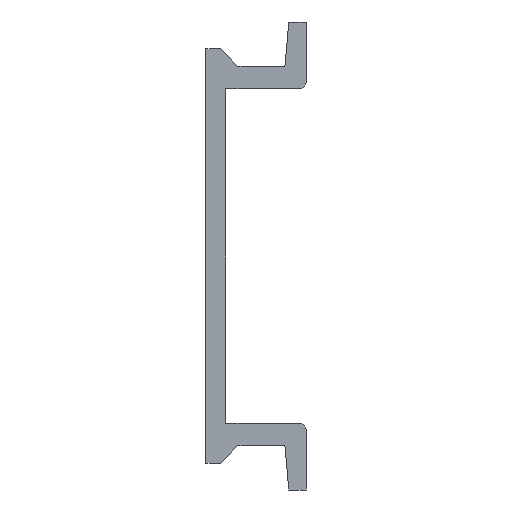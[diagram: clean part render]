
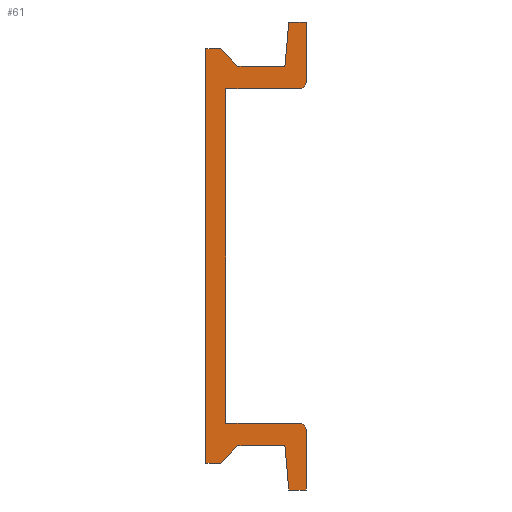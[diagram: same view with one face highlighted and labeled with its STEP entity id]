
A CAD part, left-side view. The second image highlights one B-rep face of the part: STEP entity #61.
In plain terms, the highlighted planar face has unit normal (-1, 0, 0).
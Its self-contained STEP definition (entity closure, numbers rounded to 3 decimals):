
#61=ADVANCED_FACE('',(#373),#372,.F.);
#372=PLANE('',#1184);
#373=FACE_OUTER_BOUND('',#1185,.T.);
#1181=CARTESIAN_POINT('',(0.,-8.25,21.));
#1182=DIRECTION('',(1.,0.,0.));
#1183=DIRECTION('',(0.,0.,-1.));
#1184=AXIS2_PLACEMENT_3D('',#1181,#1182,#1183);
#1185=EDGE_LOOP('',(#1750,#1751,#1752,#1753,#1754,#1755,#1756,#1757,#1758,#1759,#1760,#1761,#1762,#1763,#1764,#1765,#1766,#1767));
#1750=ORIENTED_EDGE('',*,*,#2039,.T.);
#1751=ORIENTED_EDGE('',*,*,#2043,.T.);
#1752=ORIENTED_EDGE('',*,*,#2223,.T.);
#1753=ORIENTED_EDGE('',*,*,#2220,.T.);
#1754=ORIENTED_EDGE('',*,*,#2217,.T.);
#1755=ORIENTED_EDGE('',*,*,#2214,.T.);
#1756=ORIENTED_EDGE('',*,*,#2211,.T.);
#1757=ORIENTED_EDGE('',*,*,#2208,.T.);
#1758=ORIENTED_EDGE('',*,*,#2205,.T.);
#1759=ORIENTED_EDGE('',*,*,#2202,.T.);
#1760=ORIENTED_EDGE('',*,*,#2133,.T.);
#1761=ORIENTED_EDGE('',*,*,#2130,.T.);
#1762=ORIENTED_EDGE('',*,*,#2127,.T.);
#1763=ORIENTED_EDGE('',*,*,#2124,.T.);
#1764=ORIENTED_EDGE('',*,*,#2121,.T.);
#1765=ORIENTED_EDGE('',*,*,#2118,.T.);
#1766=ORIENTED_EDGE('',*,*,#2115,.T.);
#1767=ORIENTED_EDGE('',*,*,#2112,.T.);
#2039=EDGE_CURVE('',#2338,#2339,#2340,.T.);
#2043=EDGE_CURVE('',#2339,#2366,#2367,.T.);
#2112=EDGE_CURVE('',#2847,#2338,#2848,.T.);
#2115=EDGE_CURVE('',#2867,#2847,#2868,.T.);
#2118=EDGE_CURVE('',#2887,#2867,#2888,.T.);
#2121=EDGE_CURVE('',#2907,#2887,#2908,.T.);
#2124=EDGE_CURVE('',#2927,#2907,#2928,.T.);
#2127=EDGE_CURVE('',#2947,#2927,#2948,.T.);
#2130=EDGE_CURVE('',#2967,#2947,#2968,.T.);
#2133=EDGE_CURVE('',#2987,#2967,#2988,.T.);
#2202=EDGE_CURVE('',#3468,#2987,#3469,.T.);
#2205=EDGE_CURVE('',#3488,#3468,#3489,.T.);
#2208=EDGE_CURVE('',#3508,#3488,#3509,.T.);
#2211=EDGE_CURVE('',#3528,#3508,#3529,.T.);
#2214=EDGE_CURVE('',#3548,#3528,#3549,.T.);
#2217=EDGE_CURVE('',#3568,#3548,#3569,.T.);
#2220=EDGE_CURVE('',#3588,#3568,#3589,.T.);
#2223=EDGE_CURVE('',#2366,#3588,#3608,.T.);
#2338=VERTEX_POINT('',#4039);
#2339=VERTEX_POINT('',#4040);
#2340=LINE('',#4041,#4042);
#2366=VERTEX_POINT('',#4055);
#2367=LINE('',#4056,#4057);
#2847=VERTEX_POINT('',#4362);
#2848=CIRCLE('',#4366,0.5);
#2867=VERTEX_POINT('',#4375);
#2868=LINE('',#4376,#4377);
#2887=VERTEX_POINT('',#4386);
#2888=LINE('',#4387,#4388);
#2907=VERTEX_POINT('',#4397);
#2908=LINE('',#4398,#4399);
#2927=VERTEX_POINT('',#4408);
#2928=LINE('',#4409,#4410);
#2947=VERTEX_POINT('',#4419);
#2948=LINE('',#4420,#4421);
#2967=VERTEX_POINT('',#4430);
#2968=LINE('',#4431,#4432);
#2987=VERTEX_POINT('',#4441);
#2988=LINE('',#4442,#4443);
#3468=VERTEX_POINT('',#4748);
#3469=LINE('',#4749,#4750);
#3488=VERTEX_POINT('',#4759);
#3489=LINE('',#4760,#4761);
#3508=VERTEX_POINT('',#4770);
#3509=LINE('',#4771,#4772);
#3528=VERTEX_POINT('',#4781);
#3529=LINE('',#4782,#4783);
#3548=VERTEX_POINT('',#4792);
#3549=LINE('',#4793,#4794);
#3568=VERTEX_POINT('',#4803);
#3569=LINE('',#4804,#4805);
#3588=VERTEX_POINT('',#4814);
#3589=CIRCLE('',#4818,0.5);
#3608=LINE('',#4827,#4828);
#4039=CARTESIAN_POINT('',(0.,-7.,-12.5));
#4040=CARTESIAN_POINT('',(0.,-1.5,-12.5));
#4041=CARTESIAN_POINT('',(0.,-7.,-12.5));
#4042=VECTOR('',#4043,5.5);
#4043=DIRECTION('',(0.,1.,0.));
#4055=CARTESIAN_POINT('',(0.,-1.5,12.5));
#4056=CARTESIAN_POINT('',(0.,-1.5,-12.5));
#4057=VECTOR('',#4058,25.);
#4058=DIRECTION('',(0.,0.,1.));
#4362=CARTESIAN_POINT('',(0.,-7.5,-13.));
#4363=CARTESIAN_POINT('',(0.,-7.,-13.));
#4364=DIRECTION('',(-1.,0.,0.));
#4365=DIRECTION('',(0.,0.,1.));
#4366=AXIS2_PLACEMENT_3D('',#4363,#4364,#4365);
#4375=CARTESIAN_POINT('',(0.,-7.5,-17.5));
#4376=CARTESIAN_POINT('',(0.,-7.5,-17.5));
#4377=VECTOR('',#4378,4.5);
#4378=DIRECTION('',(0.,0.,1.));
#4386=CARTESIAN_POINT('',(0.,-6.2,-17.5));
#4387=CARTESIAN_POINT('',(0.,-6.2,-17.5));
#4388=VECTOR('',#4389,1.3);
#4389=DIRECTION('',(0.,-1.,0.));
#4397=CARTESIAN_POINT('',(0.,-5.911,-14.2));
#4398=CARTESIAN_POINT('',(0.,-5.911,-14.2));
#4399=VECTOR('',#4400,3.313);
#4400=DIRECTION('',(0.,-0.087,-0.996));
#4408=CARTESIAN_POINT('',(0.,-2.4,-14.2));
#4409=CARTESIAN_POINT('',(0.,-2.4,-14.2));
#4410=VECTOR('',#4411,3.511);
#4411=DIRECTION('',(0.,-1.,0.));
#4419=CARTESIAN_POINT('',(0.,-1.1,-15.5));
#4420=CARTESIAN_POINT('',(0.,-1.1,-15.5));
#4421=VECTOR('',#4422,1.838);
#4422=DIRECTION('',(0.,-0.707,0.707));
#4430=CARTESIAN_POINT('',(0.,0.,-15.5));
#4431=CARTESIAN_POINT('',(0.,0.,-15.5));
#4432=VECTOR('',#4433,1.1);
#4433=DIRECTION('',(0.,-1.,0.));
#4441=CARTESIAN_POINT('',(0.,0.,15.5));
#4442=CARTESIAN_POINT('',(0.,0.,15.5));
#4443=VECTOR('',#4444,31.);
#4444=DIRECTION('',(0.,0.,-1.));
#4748=CARTESIAN_POINT('',(0.,-1.1,15.5));
#4749=CARTESIAN_POINT('',(0.,-1.1,15.5));
#4750=VECTOR('',#4751,1.1);
#4751=DIRECTION('',(0.,1.,0.));
#4759=CARTESIAN_POINT('',(0.,-2.4,14.2));
#4760=CARTESIAN_POINT('',(0.,-2.4,14.2));
#4761=VECTOR('',#4762,1.838);
#4762=DIRECTION('',(0.,0.707,0.707));
#4770=CARTESIAN_POINT('',(0.,-5.911,14.2));
#4771=CARTESIAN_POINT('',(0.,-5.911,14.2));
#4772=VECTOR('',#4773,3.511);
#4773=DIRECTION('',(0.,1.,0.));
#4781=CARTESIAN_POINT('',(0.,-6.2,17.5));
#4782=CARTESIAN_POINT('',(0.,-6.2,17.5));
#4783=VECTOR('',#4784,3.313);
#4784=DIRECTION('',(0.,0.087,-0.996));
#4792=CARTESIAN_POINT('',(0.,-7.5,17.5));
#4793=CARTESIAN_POINT('',(0.,-7.5,17.5));
#4794=VECTOR('',#4795,1.3);
#4795=DIRECTION('',(0.,1.,0.));
#4803=CARTESIAN_POINT('',(0.,-7.5,13.));
#4804=CARTESIAN_POINT('',(0.,-7.5,13.));
#4805=VECTOR('',#4806,4.5);
#4806=DIRECTION('',(0.,0.,1.));
#4814=CARTESIAN_POINT('',(0.,-7.,12.5));
#4815=CARTESIAN_POINT('',(0.,-7.,13.));
#4816=DIRECTION('',(-1.,0.,0.));
#4817=DIRECTION('',(0.,0.,1.));
#4818=AXIS2_PLACEMENT_3D('',#4815,#4816,#4817);
#4827=CARTESIAN_POINT('',(0.,-1.5,12.5));
#4828=VECTOR('',#4829,5.5);
#4829=DIRECTION('',(0.,-1.,0.));
